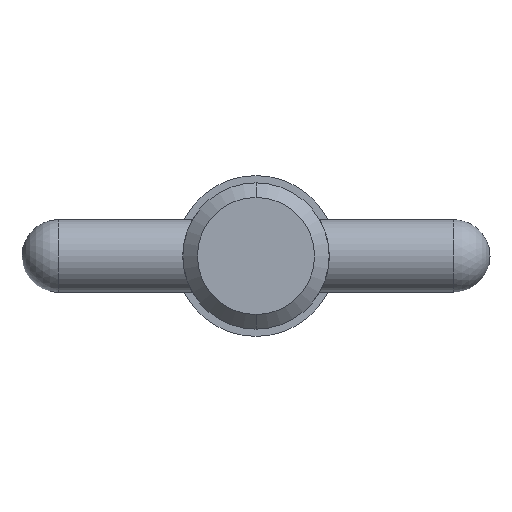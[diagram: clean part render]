
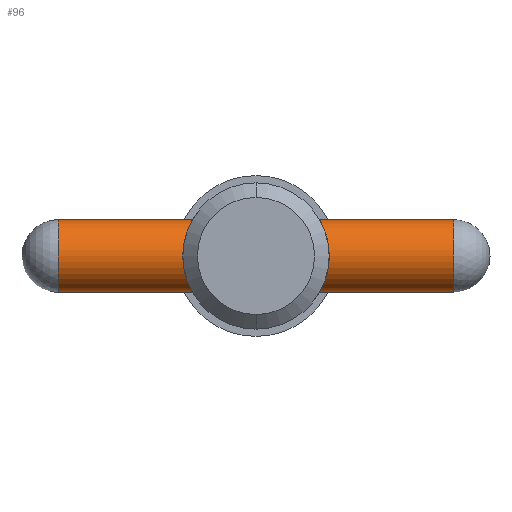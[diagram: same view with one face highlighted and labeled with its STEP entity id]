
A CAD part, left-side view. The second image highlights one B-rep face of the part: STEP entity #96.
In plain terms, the highlighted cylindrical face has radius 1.98 mm (diameter 3.96 mm), a partial arc.
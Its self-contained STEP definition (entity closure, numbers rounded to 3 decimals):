
#2 = AXIS2_PLACEMENT_3D ( 'NONE', #265, #191, #743 ) ;
#16 = EDGE_CURVE ( 'NONE', #196, #683, #978, .T. ) ;
#44 = ORIENTED_EDGE ( 'NONE', *, *, #16, .T. ) ;
#96 = ADVANCED_FACE ( 'NONE', ( #343 ), #661, .T. ) ;
#144 = CARTESIAN_POINT ( 'NONE',  ( 0., -10.72, 1.98 ) ) ;
#170 = AXIS2_PLACEMENT_3D ( 'NONE', #825, #505, #580 ) ;
#185 = LINE ( 'NONE', #427, #315 ) ;
#191 = DIRECTION ( 'NONE',  ( 0., -1., 0. ) ) ;
#196 = VERTEX_POINT ( 'NONE', #378 ) ;
#213 = ORIENTED_EDGE ( 'NONE', *, *, #1015, .T. ) ;
#224 = DIRECTION ( 'NONE',  ( 0., 0., -1. ) ) ;
#265 = CARTESIAN_POINT ( 'NONE',  ( 0., 12.7, 0. ) ) ;
#286 = CIRCLE ( 'NONE', #170, 1.98 ) ;
#315 = VECTOR ( 'NONE', #901, 1000. ) ;
#343 = FACE_OUTER_BOUND ( 'NONE', #995, .T. ) ;
#362 = DIRECTION ( 'NONE',  ( 0., -1., 0. ) ) ;
#378 = CARTESIAN_POINT ( 'NONE',  ( 0., 10.72, -1.98 ) ) ;
#427 = CARTESIAN_POINT ( 'NONE',  ( 0., 12.7, 1.98 ) ) ;
#505 = DIRECTION ( 'NONE',  ( 0., 1., 0. ) ) ;
#580 = DIRECTION ( 'NONE',  ( 0., 0., -1. ) ) ;
#601 = ORIENTED_EDGE ( 'NONE', *, *, #739, .T. ) ;
#603 = AXIS2_PLACEMENT_3D ( 'NONE', #854, #952, #224 ) ;
#617 = CIRCLE ( 'NONE', #603, 1.98 ) ;
#661 = CYLINDRICAL_SURFACE ( 'NONE', #2, 1.98 ) ;
#683 = VERTEX_POINT ( 'NONE', #707 ) ;
#687 = VERTEX_POINT ( 'NONE', #941 ) ;
#707 = CARTESIAN_POINT ( 'NONE',  ( 0., -10.72, -1.98 ) ) ;
#739 = EDGE_CURVE ( 'NONE', #687, #196, #617, .T. ) ;
#743 = DIRECTION ( 'NONE',  ( 0., 0., -1. ) ) ;
#779 = ORIENTED_EDGE ( 'NONE', *, *, #1006, .F. ) ;
#791 = VERTEX_POINT ( 'NONE', #144 ) ;
#814 = VECTOR ( 'NONE', #362, 1000. ) ;
#825 = CARTESIAN_POINT ( 'NONE',  ( 0., -10.72, 0. ) ) ;
#854 = CARTESIAN_POINT ( 'NONE',  ( 0., 10.72, 0. ) ) ;
#901 = DIRECTION ( 'NONE',  ( 0., -1., 0. ) ) ;
#910 = CARTESIAN_POINT ( 'NONE',  ( 0., 12.7, -1.98 ) ) ;
#941 = CARTESIAN_POINT ( 'NONE',  ( 0., 10.72, 1.98 ) ) ;
#952 = DIRECTION ( 'NONE',  ( 0., -1., 0. ) ) ;
#978 = LINE ( 'NONE', #910, #814 ) ;
#995 = EDGE_LOOP ( 'NONE', ( #779, #601, #44, #213 ) ) ;
#1006 = EDGE_CURVE ( 'NONE', #687, #791, #185, .T. ) ;
#1015 = EDGE_CURVE ( 'NONE', #683, #791, #286, .T. ) ;
